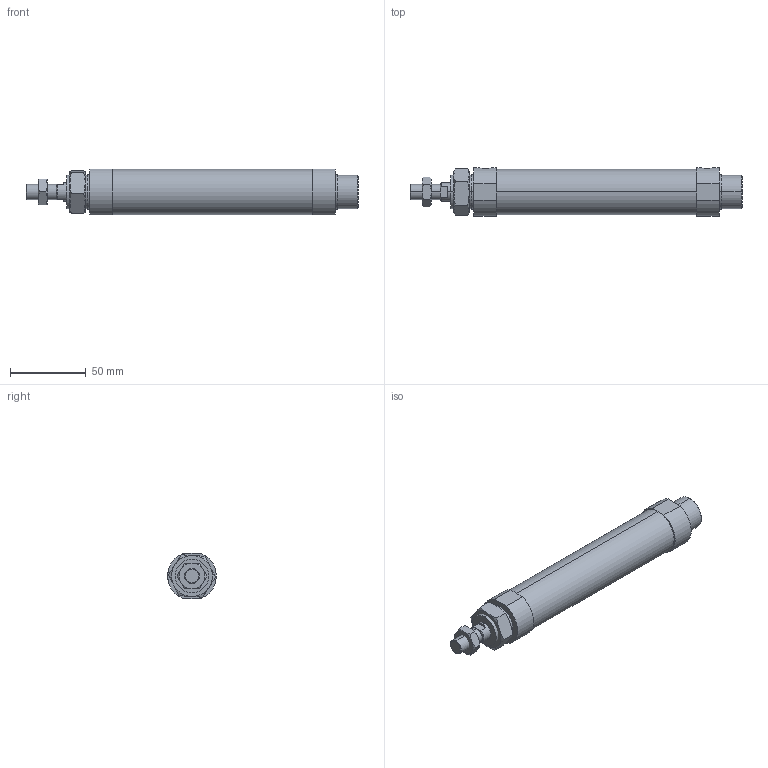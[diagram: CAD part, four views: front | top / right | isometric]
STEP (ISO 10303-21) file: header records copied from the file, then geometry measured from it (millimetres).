
FILE_DESCRIPTION (( 'STEP AP203' ), '1' );
FILE_NAME ('J#2-25-100-N.STEP', '2016-03-08T07:16:03', ( '' ), ( '' ), 'SwSTEP 2.0', 'SolidWorks 2014', '' );
FILE_SCHEMA (( 'CONFIG_CONTROL_DESIGN' ));
Length unit declared in the file: millimetre
Products named in the file (4): J#2-25-100-N; J#2-25-100
Assembly tree (3 placements, depth 2):
  J#2-25-100-N
    J#2-25-100
    (unnamed)
    (unnamed)
Bounding box: 219 x 32 x 30 mm (x, y, z)
Volume: 132312.4 mm3; surface area: 24367.1 mm2
Topology: 3 solids, 3 shells, 97 faces, 214 edges, 126 vertices
Faces by surface type: plane 37, cylinder 26, torus 24, cone 10
Entity records: 3360 total; most frequent: CARTESIAN_POINT 879, DIRECTION 442, ORIENTED_EDGE 420, EDGE_CURVE 210, AXIS2_PLACEMENT_3D 185, VERTEX_POINT 126, EDGE_LOOP 108, FACE_OUTER_BOUND 97
